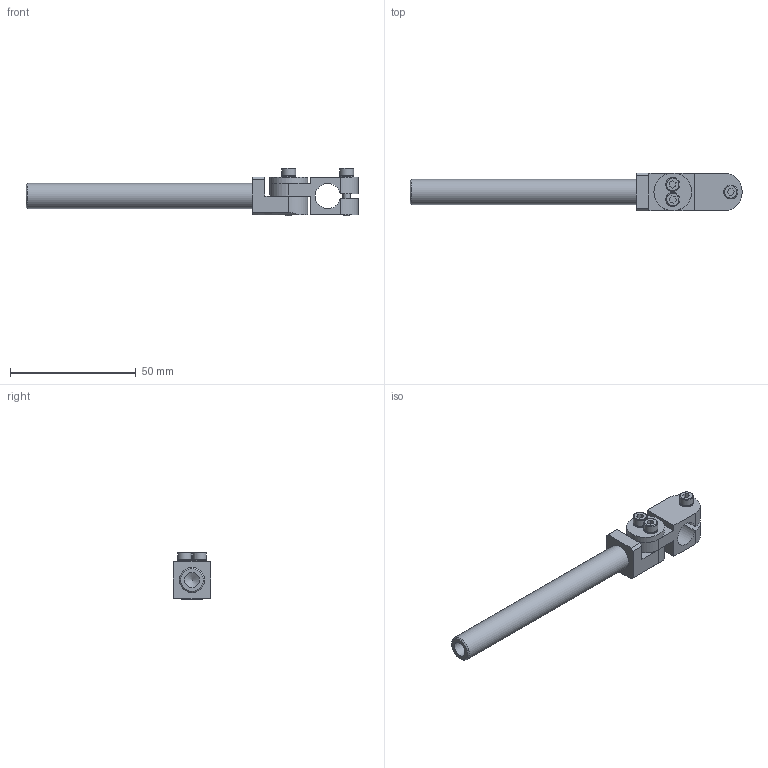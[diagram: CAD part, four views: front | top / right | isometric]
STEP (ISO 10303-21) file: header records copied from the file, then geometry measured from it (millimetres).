
FILE_DESCRIPTION(('STEP AP214'),'1');
FILE_NAME('CA.GVR.1010.90.stp','2020-09-21T09:32:01',(' '),(' '),'Spatial InterOp 3D',' ',' ');
FILE_SCHEMA(('AUTOMOTIVE_DESIGN { 1 0 10303 214 1 1 1 1 }'));
Length unit declared in the file: millimetre
Products named in the file (6): CA.GVR.1010.90; V.TCE3x16; R.3.SCH; GVR.10.2; GVR.10.3; GVR.10.1.90
Assembly tree (9 placements, depth 2):
  CA.GVR.1010.90
    V.TCE3x16  x3
    R.3.SCH  x3
    GVR.10.2
    GVR.10.3
    GVR.10.1.90
Bounding box: 132 x 15 x 19 mm (x, y, z)
Volume: 12453.4 mm3; surface area: 9622.2 mm2
Topology: 9 solids, 9 shells, 682 faces, 2062 edges, 1400 vertices
Faces by surface type: plane 632, cylinder 39, torus 6, cone 5
Full cylindrical faces by diameter (mm): 2.5 x2, 2.7 x1, 3 x3, 3.2 x3, 3.5 x3, 5.5 x6, 6 x1, 9.9 x1, 10 x1, 10.1 x1, 15 x1
Entity records: 11298 total; most frequent: CARTESIAN_POINT 1563, DIRECTION 1555, ORIENTED_EDGE 1510, EDGE_CURVE 755, AXIS2_PLACEMENT_3D 528, VERTEX_POINT 524, LINE 499, VECTOR 499
